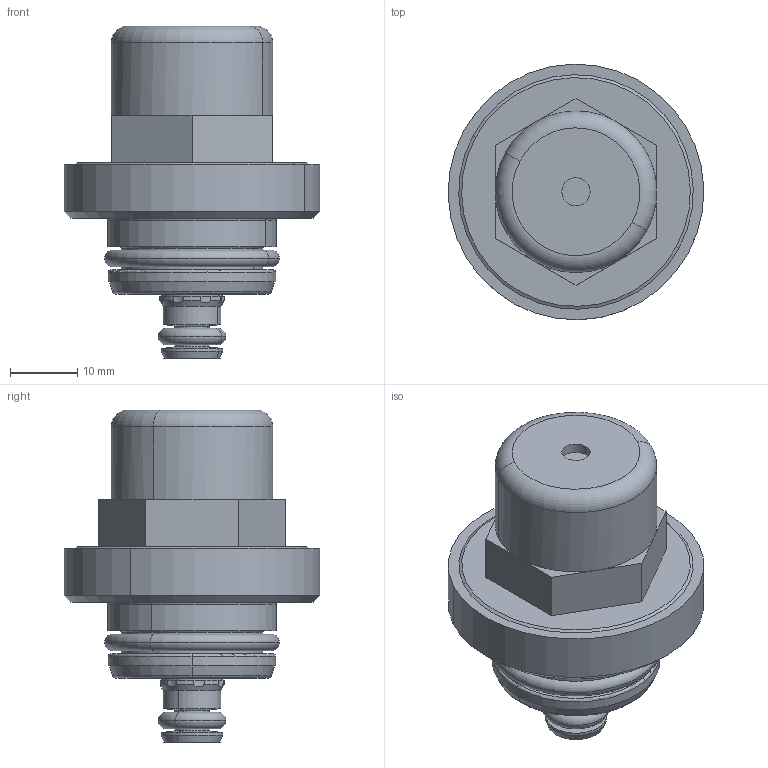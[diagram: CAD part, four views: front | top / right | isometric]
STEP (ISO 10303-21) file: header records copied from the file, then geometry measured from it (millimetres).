
FILE_DESCRIPTION(('CATIA V5 STEP Exchange','CAx-IF Rec.Pracs.--- Model Styling and Organization---1.2---2011-12-15'),'2;1');
FILE_NAME('Y:\Entwicklungsprojekte\Komponentenentwicklung\03_Hardware\16_Druckregler\FPR Mini_Mini-M_DR2\01_Allgemein\03_Zeichnungen\CAD-Daten\FPR_Mini_2__installation_model__20150420 .stp','2015-04-20T17:13:29+00:00',('none'),('none'),'CATIA Version 5-6 Release 2012 SP4 HF68','CATIA V5 STEP AP214','none');
FILE_SCHEMA(('AUTOMOTIVE_DESIGN { 1 0 10303 214 1 1 1 1 }'));
Length unit declared in the file: millimetre
Products named in the file (1): FPR_Mini_2__installation_model__20150420
Bounding box: 37.99 x 37.99 x 49.35 mm (x, y, z)
Volume: 24081.4 mm3; surface area: 8106.3 mm2
Topology: 4 solids, 4 shells, 209 faces, 484 edges, 304 vertices
Faces by surface type: cylinder 102, plane 53, torus 34, cone 20
Entity records: 6528 total; most frequent: CARTESIAN_POINT 1449, ORIENTED_EDGE 968, DIRECTION 667, EDGE_CURVE 484, AXIS2_PLACEMENT_3D 371, VERTEX_POINT 304, CIRCLE 255, EDGE_LOOP 236
